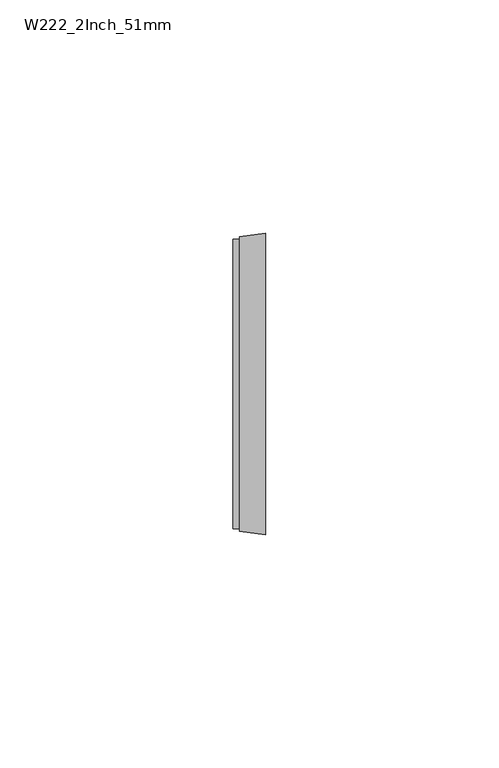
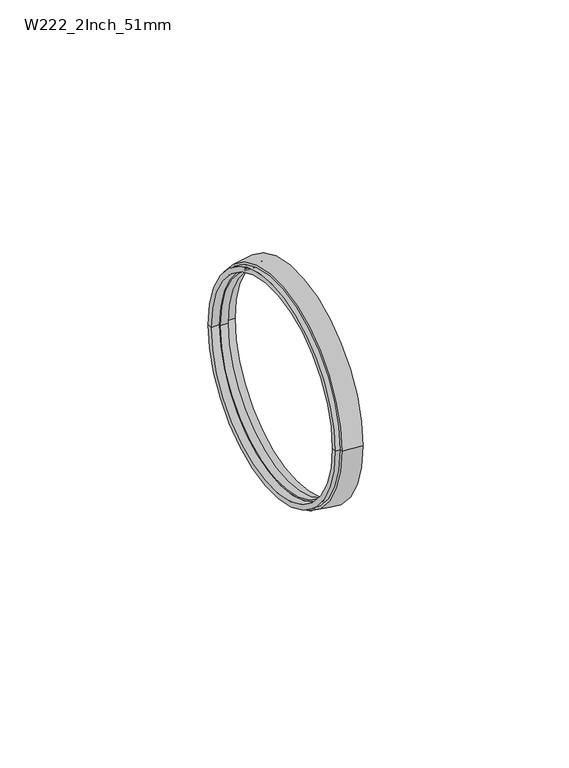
"""IFC4 building model written with IfcOpenShell, lengths in millimetres: pipe fitting geometry, Durapipe_PipeFitting_VulcatheneMechanical_Olive_W22 : W222_2Inch_51mm."""

from ifc_helpers import new_model, si_unit, frame, origin, place, context, project, spatial, polyline, circle_curve, source, transform, mapped, element, save
from ifc_brep_helpers import plane_surface, cylinder_surface, revolved_surface, advanced_brep


def w222_2inch_51mm_2c6371f4(model_context):
    return source(origin(), model_context, "Body", "AdvancedBrep", [
        advanced_brep(
        [(-2.1, 31.6, 0.0), (-2.1, -31.6, 0.0), (-2.1, -31.0, 0.0), (-2.1, 31.0, 0.0), (3.5, -32.3, 0.0), (3.5, 32.3, 0.0), (3.5, 30.1, 0.0), (3.5, -30.1, 0.0), (-3.5, -31.0, 0.0), (-3.5, 31.0, 0.0), (-3.5, -29.6, 0.0), (-3.5, 29.6, 0.0), (-1.2, -29.6, 0.0), (-1.2, 29.6, 0.0), (-1.2, -29.2, 0.0), (-1.2, 29.2, 0.0), (1.0, -30.1, 0.0), (1.0, 30.1, 0.0), (1.0, 29.2, 0.0), (1.0, -29.2, 0.0)],
        [
            (0, 1, circle_curve(frame((-2.1, 0.0, 0.0), z_axis=(-1.0, 0.0, 0.0), x_axis=(0.0, 1.0, 0.0)), 31.6)),
            (1, 2),
            (2, 3, circle_curve(frame((-2.1, 0.0, 0.0), z_axis=(1.0, 0.0, 0.0), x_axis=(0.0, 1.0, 0.0)), 31.0)),
            (3, 0),
            (1, 0, circle_curve(frame((-2.1, 0.0, 0.0), z_axis=(-1.0, 0.0, 0.0), x_axis=(0.0, 1.0, 0.0)), 31.6)),
            (3, 2, circle_curve(frame((-2.1, 0.0, 0.0), z_axis=(1.0, 0.0, 0.0), x_axis=(0.0, 1.0, 0.0)), 31.0)),
            (4, 5, circle_curve(frame((3.5, 0.0, 0.0), z_axis=(1.0, 0.0, 0.0), x_axis=(0.0, 1.0, 0.0)), 32.3)),
            (5, 6),
            (6, 7, circle_curve(frame((3.5, 0.0, 0.0), z_axis=(-1.0, 0.0, 0.0), x_axis=(0.0, 1.0, 0.0)), 30.1)),
            (7, 4),
            (5, 4, circle_curve(frame((3.5, 0.0, 0.0), z_axis=(1.0, 0.0, 0.0), x_axis=(0.0, 1.0, 0.0)), 32.3)),
            (7, 6, circle_curve(frame((3.5, 0.0, 0.0), z_axis=(-1.0, 0.0, 0.0), x_axis=(0.0, 1.0, 0.0)), 30.1)),
            (0, 5),
            (4, 1),
            (8, 9, circle_curve(frame((-3.5, 0.0, 0.0), z_axis=(1.0, 0.0, 0.0), x_axis=(0.0, 1.0, 0.0)), 31.0)),
            (9, 3),
            (2, 8),
            (9, 8, circle_curve(frame((-3.5, 0.0, 0.0), z_axis=(1.0, 0.0, 0.0), x_axis=(0.0, 1.0, 0.0)), 31.0)),
            (8, 10),
            (10, 11, circle_curve(frame((-3.5, 0.0, 0.0), z_axis=(1.0, 0.0, 0.0), x_axis=(0.0, 1.0, 0.0)), 29.6)),
            (11, 9),
            (11, 10, circle_curve(frame((-3.5, 0.0, 0.0), z_axis=(1.0, 0.0, 0.0), x_axis=(0.0, 1.0, 0.0)), 29.6)),
            (10, 12),
            (12, 13, circle_curve(frame((-1.2, 0.0, 0.0), z_axis=(1.0, 0.0, 0.0), x_axis=(0.0, 1.0, 0.0)), 29.6)),
            (13, 11),
            (13, 12, circle_curve(frame((-1.2, 0.0, 0.0), z_axis=(1.0, 0.0, 0.0), x_axis=(0.0, 1.0, 0.0)), 29.6)),
            (12, 14),
            (14, 15, circle_curve(frame((-1.2, 0.0, 0.0), z_axis=(1.0, 0.0, 0.0), x_axis=(0.0, 1.0, 0.0)), 29.2)),
            (15, 13),
            (15, 14, circle_curve(frame((-1.2, 0.0, 0.0), z_axis=(1.0, 0.0, 0.0), x_axis=(0.0, 1.0, 0.0)), 29.2)),
            (16, 17, circle_curve(frame((1.0, 0.0, 0.0), z_axis=(1.0, 0.0, 0.0), x_axis=(0.0, 1.0, 0.0)), 30.1)),
            (17, 18),
            (18, 19, circle_curve(frame((1.0, 0.0, 0.0), z_axis=(-1.0, 0.0, 0.0), x_axis=(0.0, 1.0, 0.0)), 29.2)),
            (19, 16),
            (17, 16, circle_curve(frame((1.0, 0.0, 0.0), z_axis=(1.0, 0.0, 0.0), x_axis=(0.0, 1.0, 0.0)), 30.1)),
            (19, 18, circle_curve(frame((1.0, 0.0, 0.0), z_axis=(-1.0, 0.0, 0.0), x_axis=(0.0, 1.0, 0.0)), 29.2)),
            (6, 17),
            (16, 7),
            (14, 19),
            (18, 15),
        ],
        [
            plane_surface(frame((-2.1, 0.0, 0.0), z_axis=(-1.0, 0.0, 0.0), x_axis=(0.0, 1.0, 0.0))),
            plane_surface(frame((3.5, 0.0, 0.0), z_axis=(1.0, 0.0, 0.0), x_axis=(0.0, 1.0, 0.0))),
            revolved_surface(polyline([(3.5, 32.3, 0.0), (-2.1, 31.6, 0.0)]), (8.5, 0.0, 0.0), (-1.0, 0.0, 0.0)),
            cylinder_surface(frame((-5.5706557, 0.0, 0.0), z_axis=(-1.0, 0.0, 0.0), x_axis=(0.0, 1.0, 0.0)), 31.0),
            plane_surface(frame((-3.5, 0.0, 0.0), z_axis=(-1.0, 0.0, 0.0), x_axis=(0.0, 1.0, 0.0))),
            revolved_surface(polyline([(-3.5, 29.6, 0.0), (-1.2000000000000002, 29.6, 0.0)]), (-6.992991, 0.0, 0.0), (-1.0, 0.0, 0.0)),
            plane_surface(frame((-1.2, 0.0, 0.0), z_axis=(-1.0, 0.0, 0.0), x_axis=(0.0, 1.0, 0.0))),
            plane_surface(frame((1.0, 0.0, 0.0), z_axis=(1.0, 0.0, 0.0), x_axis=(0.0, 1.0, 0.0))),
            revolved_surface(polyline([(1.0, 30.1, 0.0), (3.5, 30.1, 0.0)]), (8.5, 0.0, 0.0), (-1.0, 0.0, 0.0)),
            revolved_surface(polyline([(-1.2000000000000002, 29.2, 0.0), (1.0, 29.2, 0.0)]), (5.0661924, 0.0, 0.0), (-1.0, 0.0, 0.0)),
        ],
        [
            (0, [[1, 2, 3, 4]]),
            (0, [[5, -4, 6, -2]]),
            (1, [[7, 8, 9, 10]]),
            (1, [[-8, 11, -10, 12]]),
            (2, [[-1, 13, -7, 14]]),
            (2, [[-5, -14, -11, -13]]),
            (3, [[15, 16, -3, 17]]),
            (3, [[-16, 18, -17, -6]]),
            (4, [[-15, 19, 20, 21]]),
            (4, [[-18, -21, 22, -19]]),
            (5, [[23, 24, 25, -20]]),
            (5, [[-23, -22, -25, 26]]),
            (6, [[-24, 27, 28, 29]]),
            (6, [[-26, -29, 30, -27]]),
            (7, [[31, 32, 33, 34]]),
            (7, [[35, -34, 36, -32]]),
            (8, [[-9, 37, -31, 38]]),
            (8, [[-12, -38, -35, -37]]),
            (9, [[39, -33, 40, -28]]),
            (9, [[-39, -30, -40, -36]]),
        ],
    ),
    ])


if __name__ == "__main__":
    model = new_model("IFC4")
    model_context = context("Model", 3, world=origin())
    ifc_project = project(units=[si_unit("LENGTHUNIT", "METRE", prefix="MILLI")], contexts=[model_context])
    site = spatial("IfcSite", under=ifc_project)
    building = spatial("IfcBuilding", under=site)
    placement = place(None, origin())
    w222_2inch_51mm_shape = w222_2inch_51mm_2c6371f4(model_context)
    element("IfcPipeFitting", 1, ObjectType="Durapipe_PipeFitting_VulcatheneMechanical_Olive_W22 : W222_2Inch_51mm", at=placement, inside=building, context=model_context, shape_type="MappedRepresentation", body=[
        mapped(w222_2inch_51mm_shape, transform((0.0, 0.0, 0.0), x_axis=(1.0, 0.0, 0.0), y_axis=(0.0, 1.0, 0.0), z_axis=(0.0, 0.0, 1.0))),
    ])
    save(model, "model.ifc")
